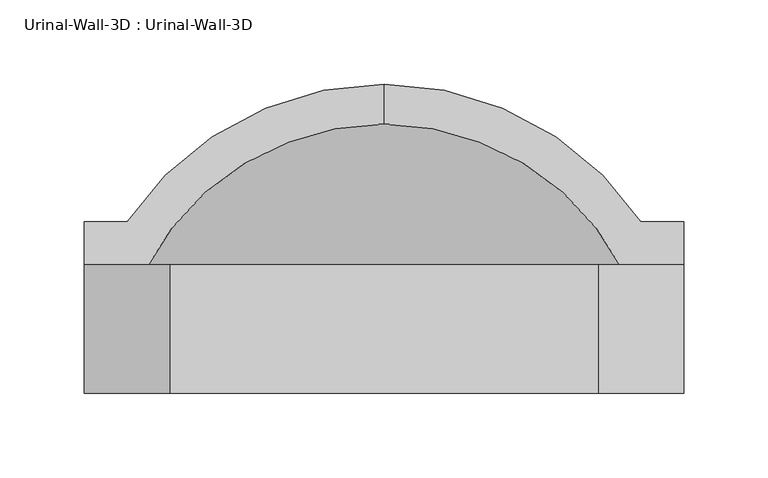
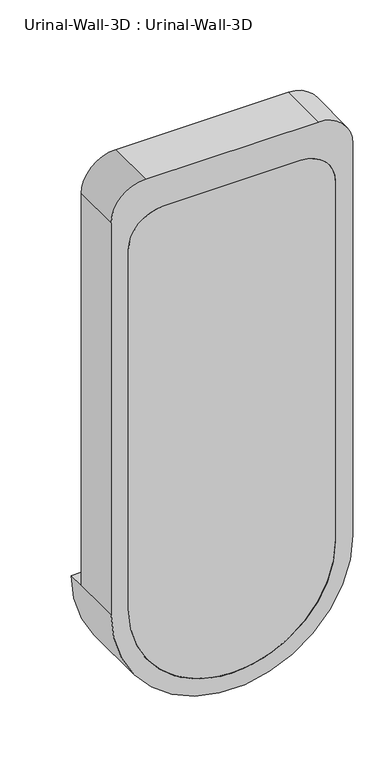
"""IFC4 building model written with IfcOpenShell, lengths in millimetres: flow terminal geometry, Urinal-Wall-3D : Urinal-Wall-3D."""

from ifc_helpers import new_model, si_unit, point, frame, frame_2d, origin, place, context, project, spatial, polyline, circle_curve, ellipse_curve, trimmed, segment, composite_curve, outline, extrude, source, transform, mapped, element, save
from ifc_brep_helpers import plane_surface, cylinder_surface, revolved_surface, advanced_brep


def urinal_wall_3d_urinal_wall_3d_1d966ad4(model_context):
    return source(origin(), model_context, "Body", "SolidModel", [
        advanced_brep(
        [(-109.0745999, 318.1620048, 610.0), (-109.0745999, 294.4447043, 610.0), (43.3254001, 181.8706063, 610.0), (43.3254001, 211.2, 610.0), (68.7254001, 211.2, 610.0), (68.7254001, 236.6, 610.0), (43.3254001, 236.6, 610.0), (-261.4745999, 236.6, 610.0), (-286.8745999, 236.6, 610.0), (-286.8745999, 211.2, 610.0), (-261.4745999, 211.2, 610.0), (-261.4745999, 181.8706063, 610.0), (-261.4745999, 135.0, 610.0), (43.3254001, 135.0, 610.0), (-286.8745999, 135.0, 610.0), (68.7254001, 135.0, 610.0), (68.7254001, 135.0, 1219.6), (17.9254001, 135.0, 1270.4), (-236.0745999, 135.0, 1270.4), (-286.8745999, 135.0, 1219.6), (-261.4745999, 135.0, 1168.8), (-210.6745999, 135.0, 1219.6), (-7.4745999, 135.0, 1219.6), (43.3254001, 135.0, 1168.8), (43.3254001, 211.2, 1168.8), (-7.4745999, 211.2, 1219.6), (-210.6745999, 211.2, 1219.6), (-261.4745999, 211.2, 1168.8), (-286.8745999, 211.2, 1219.6), (-236.0745999, 211.2, 1270.4), (17.9254001, 211.2, 1270.4), (68.7254001, 211.2, 1219.6)],
        [
            (0, 1),
            (1, 2, circle_curve(frame((-109.0745999, 135.0, 610.0), z_axis=(0.0, 0.0, -1.0), x_axis=(1.0, 0.0, 0.0)), 159.4447043)),
            (2, 3),
            (3, 4),
            (4, 5),
            (5, 6),
            (6, 0, circle_curve(frame((-109.0745999, 135.0, 610.0), z_axis=(0.0, 0.0, 1.0), x_axis=(1.0, 0.0, 0.0)), 183.1620048)),
            (0, 7, circle_curve(frame((-109.0745999, 135.0, 610.0), z_axis=(0.0, 0.0, 1.0), x_axis=(-1.0, 0.0, 0.0)), 183.1620048)),
            (7, 8),
            (8, 9),
            (9, 10),
            (10, 11),
            (11, 1, circle_curve(frame((-109.0745999, 135.0, 610.0), z_axis=(0.0, 0.0, -1.0), x_axis=(-1.0, 0.0, 0.0)), 159.4447043)),
            (11, 2, circle_curve(frame((-109.0745999, 181.8706063, 610.0), z_axis=(0.0, -1.0, 0.0), x_axis=(1.0, 0.0, 0.0)), 152.4)),
            (11, 12),
            (12, 13, circle_curve(frame((-109.0745999, 135.0, 610.0), z_axis=(0.0, -1.0, 0.0), x_axis=(1.0, 0.0, 0.0)), 152.4)),
            (13, 2),
            (14, 15, circle_curve(frame((-109.0745999, 135.0, 610.0), z_axis=(0.0, -1.0, 0.0), x_axis=(1.0, 0.0, 0.0)), 177.8)),
            (15, 16),
            (16, 17, circle_curve(frame((17.9254001, 135.0, 1219.6), z_axis=(0.0, -1.0, 0.0), x_axis=(-1.0, 0.0, 0.0)), 50.8)),
            (17, 18),
            (18, 19, circle_curve(frame((-236.0745999, 135.0, 1219.6), z_axis=(0.0, -1.0, 0.0), x_axis=(-1.0, 0.0, 0.0)), 50.8)),
            (19, 14),
            (12, 20),
            (20, 21, circle_curve(frame((-210.6745999, 135.0, 1168.8), z_axis=(0.0, 1.0, 0.0), x_axis=(-1.0, 0.0, 0.0)), 50.8)),
            (21, 22),
            (22, 23, circle_curve(frame((-7.4745999, 135.0, 1168.8), z_axis=(0.0, 1.0, 0.0), x_axis=(-1.0, 0.0, 0.0)), 50.8)),
            (23, 13),
            (14, 9),
            (8, 5, circle_curve(frame((-109.0745999, 236.6, 610.0), z_axis=(0.0, -1.0, 0.0), x_axis=(1.0, 0.0, 0.0)), 177.8)),
            (4, 15),
            (7, 6, circle_curve(frame((-109.0745999, 236.6, 610.0), z_axis=(0.0, -1.0, 0.0), x_axis=(1.0, 0.0, 0.0)), 152.4)),
            (3, 24),
            (24, 25, circle_curve(frame((-7.4745999, 211.2, 1168.8), z_axis=(0.0, -1.0, 0.0), x_axis=(-1.0, 0.0, 0.0)), 50.8)),
            (25, 26),
            (26, 27, circle_curve(frame((-210.6745999, 211.2, 1168.8), z_axis=(0.0, -1.0, 0.0), x_axis=(-1.0, 0.0, 0.0)), 50.8)),
            (27, 10),
            (9, 28),
            (28, 29, circle_curve(frame((-236.0745999, 211.2, 1219.6), z_axis=(0.0, 1.0, 0.0), x_axis=(-1.0, 0.0, 0.0)), 50.8)),
            (29, 30),
            (30, 31, circle_curve(frame((17.9254001, 211.2, 1219.6), z_axis=(0.0, 1.0, 0.0), x_axis=(-1.0, 0.0, 0.0)), 50.8)),
            (31, 4),
            (23, 24),
            (22, 25),
            (21, 26),
            (20, 27),
            (19, 28),
            (18, 29),
            (17, 30),
            (16, 31),
        ],
        [
            plane_surface(frame((-109.0745999, 424.2104173, 610.0), z_axis=(0.0, 0.0, 1.0), x_axis=(1.0, 0.0, 0.0))),
            plane_surface(frame((-109.0745999, 424.2104173, 610.0), z_axis=(0.0, 0.0, 1.0), x_axis=(-1.0, 0.0, 0.0))),
            revolved_surface(trimmed(ellipse_curve(frame((-109.0745999, 135.0, 610.0), z_axis=(0.0, 0.0, -1.0), x_axis=(1.0, 0.0, 0.0)), 159.4447043, 159.4447043), [point((-109.0745999, 294.4447043, 610.0))], [point((43.3254001, 181.8706063, 610.0))], True, "CARTESIAN"), (-109.0745999, 424.2104173, 610.0), (0.0, 1.0, 0.0)),
            revolved_surface(polyline([(43.32540010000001, 181.8706063, 610.0), (43.32540010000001, 135.0, 610.0)]), (-109.0745999, 424.2104173, 610.0), (0.0, 1.0, 0.0)),
            plane_surface(frame((-109.0745999, 135.0, 610.0), z_axis=(0.0, -1.0, 0.0), x_axis=(1.0, 0.0, 0.0))),
            cylinder_surface(frame((-109.0745999, 424.2104173, 610.0), z_axis=(0.0, 1.0, 0.0), x_axis=(1.0, 0.0, 0.0)), 177.8),
            plane_surface(frame((-109.0745999, 236.6, 610.0), z_axis=(0.0, 1.0, 0.0), x_axis=(1.0, 0.0, 0.0))),
            revolved_surface(trimmed(ellipse_curve(frame((-109.0745999, 135.0, 610.0), z_axis=(0.0, 0.0, 1.0), x_axis=(1.0, 0.0, 0.0)), 183.1620048, 183.1620048), [point((43.3254001, 236.6, 610.0))], [point((-109.0745999, 318.1620048, 610.0))], True, "CARTESIAN"), (-109.0745999, 424.2104173, 610.0), (0.0, 1.0, 0.0)),
            plane_surface(frame((43.3254001, 211.2, 610.0), z_axis=(0.0, 1.0, 0.0), x_axis=(0.0, 0.0, 1.0))),
            plane_surface(frame((43.3254001, 211.2, 610.0), z_axis=(-1.0, 0.0, 0.0), x_axis=(0.0, -1.0, 0.0))),
            revolved_surface(polyline([(-58.2745999, 135.0, 1168.8), (-58.2745999, 211.2, 1168.8)]), (-7.4745999, 135.0, 1168.8), (0.0, -1.0, 0.0)),
            plane_surface(frame((-7.4745999, 211.2, 1219.6), z_axis=(0.0, 0.0, -1.0), x_axis=(0.0, -1.0, 0.0))),
            revolved_surface(polyline([(-261.4745999, 135.0, 1168.8), (-261.4745999, 211.2, 1168.8)]), (-210.6745999, 135.0, 1168.8), (0.0, -1.0, 0.0)),
            plane_surface(frame((-261.4745999, 211.2, 1168.8), z_axis=(1.0, 0.0, 0.0), x_axis=(0.0, -1.0, 0.0))),
            plane_surface(frame((-286.8745999, 211.2, 610.0), z_axis=(-1.0, 0.0, 0.0), x_axis=(0.0, -1.0, 0.0))),
            cylinder_surface(frame((-236.0745999, 135.0, 1219.6), z_axis=(0.0, 1.0, 0.0), x_axis=(-1.0, 0.0, 0.0)), 50.8),
            plane_surface(frame((-236.0745999, 211.2, 1270.4), z_axis=(0.0, 0.0, 1.0), x_axis=(0.0, -1.0, 0.0))),
            cylinder_surface(frame((17.9254001, 135.0, 1219.6), z_axis=(0.0, 1.0, 0.0), x_axis=(-1.0, 0.0, 0.0)), 50.8),
            plane_surface(frame((68.7254001, 211.2, 1219.6), z_axis=(1.0, 0.0, 0.0), x_axis=(0.0, -1.0, 0.0))),
        ],
        [
            (0, [[1, 2, 3, 4, 5, 6, 7]]),
            (1, [[-1, 8, 9, 10, 11, 12, 13]]),
            (2, [[-2, -13, 14]]),
            (3, [[-14, 15, 16, 17]]),
            (4, [[18, 19, 20, 21, 22, 23], [-16, 24, 25, 26, 27, 28]]),
            (5, [[-18, 29, -10, 30, -5, 31]]),
            (6, [[-6, -30, -9, 32]]),
            (7, [[-7, -32, -8]]),
            (8, [[33, 34, 35, 36, 37, -11, 38, 39, 40, 41, 42, -4]]),
            (9, [[-33, -3, -17, -28, 43]]),
            (10, [[-34, -43, -27, 44]]),
            (11, [[-35, -44, -26, 45]]),
            (12, [[-36, -45, -25, 46]]),
            (13, [[-37, -46, -24, -15, -12]]),
            (14, [[-38, -29, -23, 47]]),
            (15, [[-39, -47, -22, 48]]),
            (16, [[-40, -48, -21, 49]]),
            (17, [[-41, -49, -20, 50]]),
            (18, [[-42, -50, -19, -31]]),
        ],
    ),
        extrude(outline(composite_curve([segment(trimmed(circle_curve(frame_2d((1168.8, -7.4745999)), 50.8), [point((1168.8, 43.3254001))], [point((1219.6, -7.4745999))], False, "CARTESIAN"), True, "CONTINUOUS"), segment(polyline([(1219.6, -7.4745999), (1219.6, -210.6745999)]), True, "CONTINUOUS"), segment(trimmed(circle_curve(frame_2d((1168.8, -210.6745999)), 50.8), [point((1219.6, -210.6745999))], [point((1168.8, -261.4745999))], False, "CARTESIAN"), True, "CONTINUOUS"), segment(polyline([(1168.8, -261.4745999), (610.0, -261.4745999)]), True, "CONTINUOUS"), segment(trimmed(circle_curve(frame_2d((610.0, -109.0745999)), 152.4), [point((610.0, -261.4745999))], [point((610.0, 43.3254001))], False, "CARTESIAN"), True, "CONTINUOUS"), segment(polyline([(610.0, 43.3254001), (1168.8, 43.3254001)]), True, "CONTINUOUS")], self_intersect=False)), frame((0.0, 135.0, 0.0), z_axis=(0.0, 1.0, 0.0), x_axis=(0.0, 0.0, 1.0)), (0.0, 0.0, 1.0), 12.7),
    ])


if __name__ == "__main__":
    model = new_model("IFC4")
    model_context = context("Model", 3, world=origin())
    ifc_project = project(units=[si_unit("LENGTHUNIT", "METRE", prefix="MILLI")], contexts=[model_context])
    site = spatial("IfcSite", under=ifc_project)
    building = spatial("IfcBuilding", under=site)
    placement = place(None, origin())
    urinal_wall_3d_urinal_wall_3d_shape = urinal_wall_3d_urinal_wall_3d_1d966ad4(model_context)
    element("IfcFlowTerminal", 1, ObjectType="Urinal-Wall-3D : Urinal-Wall-3D", at=placement, inside=building, context=model_context, shape_type="MappedRepresentation", body=[
        mapped(urinal_wall_3d_urinal_wall_3d_shape, transform((0.0, 0.0, 0.0), x_axis=(1.0, 0.0, 0.0), y_axis=(0.0, 1.0, 0.0), z_axis=(0.0, 0.0, 1.0))),
    ])
    save(model, "model.ifc")
